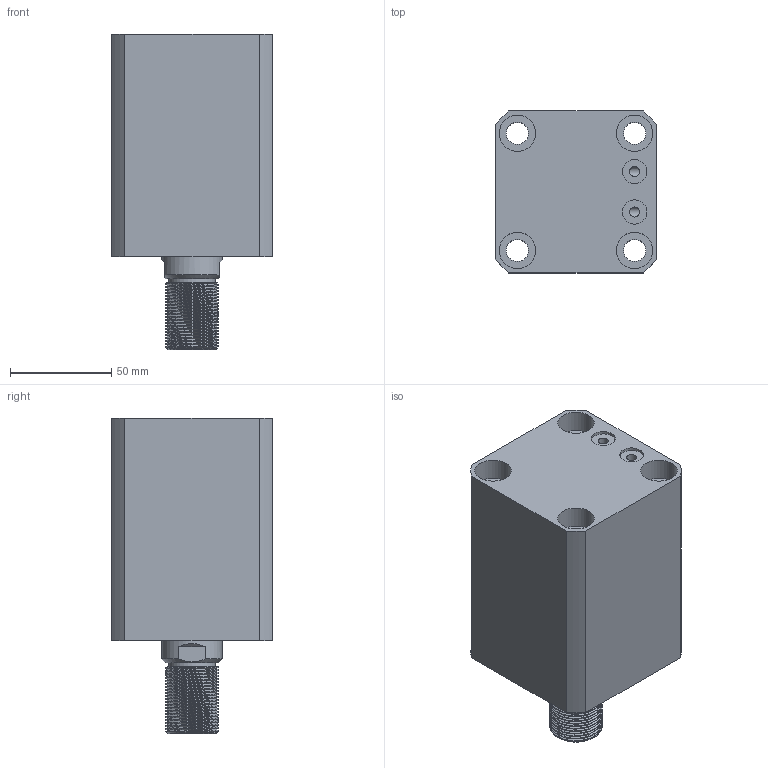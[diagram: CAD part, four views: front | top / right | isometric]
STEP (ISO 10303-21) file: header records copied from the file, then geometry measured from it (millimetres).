
FILE_DESCRIPTION(/* description */ (''),/* implementation_level */ '2;1');
FILE_NAME(/* name */ 'CHTB-SDMB50-50W.stp',/* time_stamp */ '2022-04-29T18:25:04+08:00',/* author */ (''),/* organization */ (''),/* preprocessor_version */ 'ST-DEVELOPER v16.7',/* originating_system */ 'SIEMENS PLM Software NX 12.0',/* authorisation */ '');
FILE_SCHEMA (('AUTOMOTIVE_DESIGN { 1 0 10303 214 3 1 1 1 }'));
Length unit declared in the file: millimetre
Products named in the file (1): CHTB-SDMB50-50W
Bounding box: 80 x 80 x 156 mm (x, y, z)
Volume: 599974.9 mm3; surface area: 116837.6 mm2
Topology: 5 solids, 5 shells, 505 faces, 1438 edges, 997 vertices
Faces by surface type: plane 313, extrusion 93, cylinder 52, bspline 22, cone 14, torus 11
Full cylindrical faces by diameter (mm): 4 x2, 5 x4, 11 x4, 12 x2, 18 x8, 23 x1, 30 x2, 39 x1, 46 x1, 50 x5, 55 x8, 59 x1
Entity records: 29746 total; most frequent: CARTESIAN_POINT 15240, ORIENTED_EDGE 2728, DIRECTION 1916, EDGE_CURVE 1364, VERTEX_POINT 986, VECTOR 932, LINE 839, EDGE_LOOP 622
